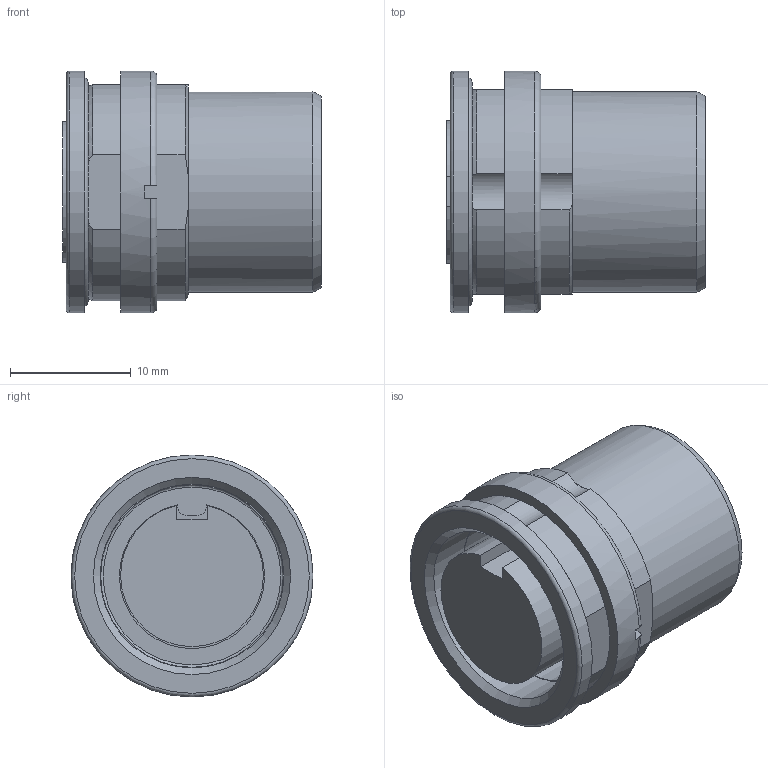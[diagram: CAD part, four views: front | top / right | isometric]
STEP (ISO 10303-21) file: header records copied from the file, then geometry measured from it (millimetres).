
FILE_DESCRIPTION(/* description */ ('PART (MM)'),/* implementation_level */ '2;1');
FILE_NAME(/* name */ 'L:\CAD Inventor\Workspace\Catalogs\CATALOG-TURCK CONNECTORS\BKF 5_8.stp',/* time_stamp */ '2021-07-27T07:39:30-05:00',/* author */ ('RSwans'),/* organization */ (''),/* preprocessor_version */ 'ST-DEVELOPER v16.5',/* originating_system */ 'Autodesk Inventor 2017',/* authorisation */ '');
FILE_SCHEMA (('AUTOMOTIVE_DESIGN { 1 0 10303 214 3 1 1 }'));
Length unit declared in the file: millimetre
Products named in the file (1): Part3
Bounding box: 21.4 x 20 x 20 mm (x, y, z)
Volume: 4449.4 mm3; surface area: 3017.8 mm2
Topology: 1 solids, 4 shells, 87 faces, 230 edges, 152 vertices
Faces by surface type: plane 41, cylinder 24, cone 14, torus 8
Full cylindrical faces by diameter (mm): 14 x2, 15.1 x1, 15.188 x1, 15.3 x1, 16.6 x1, 18.1 x1, 20 x2
Entity records: 2652 total; most frequent: CARTESIAN_POINT 517, DIRECTION 432, ORIENTED_EDGE 392, EDGE_CURVE 196, AXIS2_PLACEMENT_3D 176, VERTEX_POINT 140, EDGE_LOOP 120, FACE_OUTER_BOUND 87
